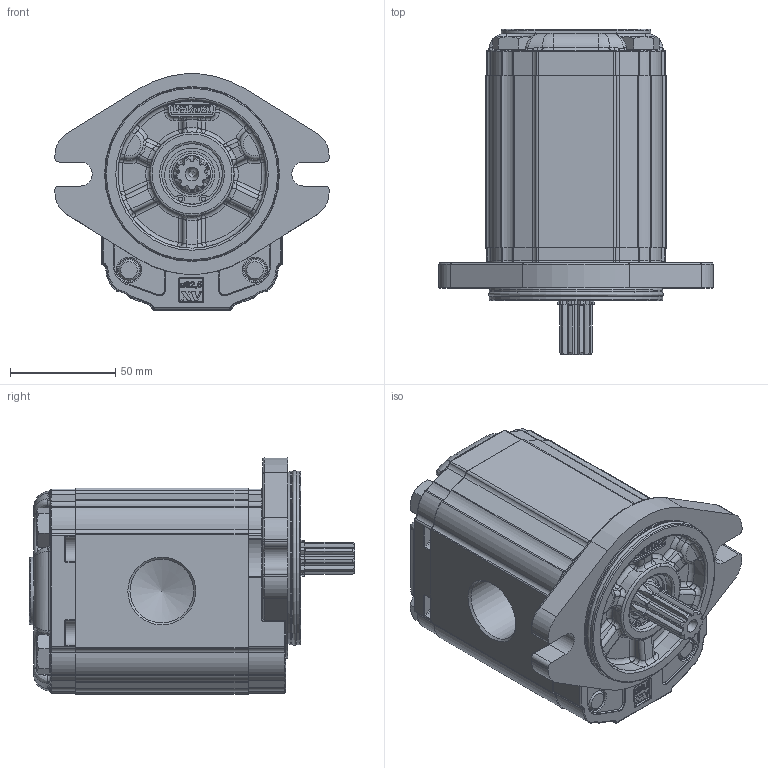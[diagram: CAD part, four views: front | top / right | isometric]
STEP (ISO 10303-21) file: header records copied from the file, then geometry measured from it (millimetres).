
FILE_DESCRIPTION(/* description */ ('Unknown'),/* implementation_level */ '2;1');
FILE_NAME(/* name */ 'X2R5731IDDE',/* time_stamp */ '2021-04-26T17:03:47+02:00',/* author */ ('Unknown'),/* organization */ ('Unknown'),/* preprocessor_version */ 'ST-DEVELOPER v16.7',/* originating_system */ 'Solid Edge',/* authorisation */ 'Unknown');
FILE_SCHEMA (('AUTOMOTIVE_DESIGN {1 0 10303 214 3 1 1}'));
Products named in the file (5): X2R5731IDDE; X2R31; 2I; X2DDH82; XR219-E
Assembly tree (4 placements, depth 2):
  X2R5731IDDE
    X2R31
    2I
    X2DDH82
    XR219-E
Bounding box: 130.38 x 154.7 x 112.3 mm (x, y, z)
Volume: 914004.4 mm3; surface area: 112324.9 mm2
Topology: 4 solids, 5 shells, 1541 faces, 3896 edges, 2430 vertices
Faces by surface type: plane 598, cylinder 431, bspline 210, torus 200, cone 76, sphere 26
Full cylindrical faces by diameter (mm): 2 x2, 11 x2, 11.445 x1, 16 x4, 17.42 x1, 17.48 x2, 18.724 x1, 20.595 x1, 21.741 x1, 25.834 x1, 28.56 x1, 28.57 x1, 28.8 x1, 30.291 x2, 30.4 x1, 79.6 x2, 82.5 x2
Entity records: 58553 total; most frequent: CARTESIAN_POINT 12877, ORIENTED_EDGE 7592, DIRECTION 7246, EDGE_CURVE 3796, AXIS2_PLACEMENT_3D 2667, VERTEX_POINT 2398, LINE 1912, VECTOR 1912
